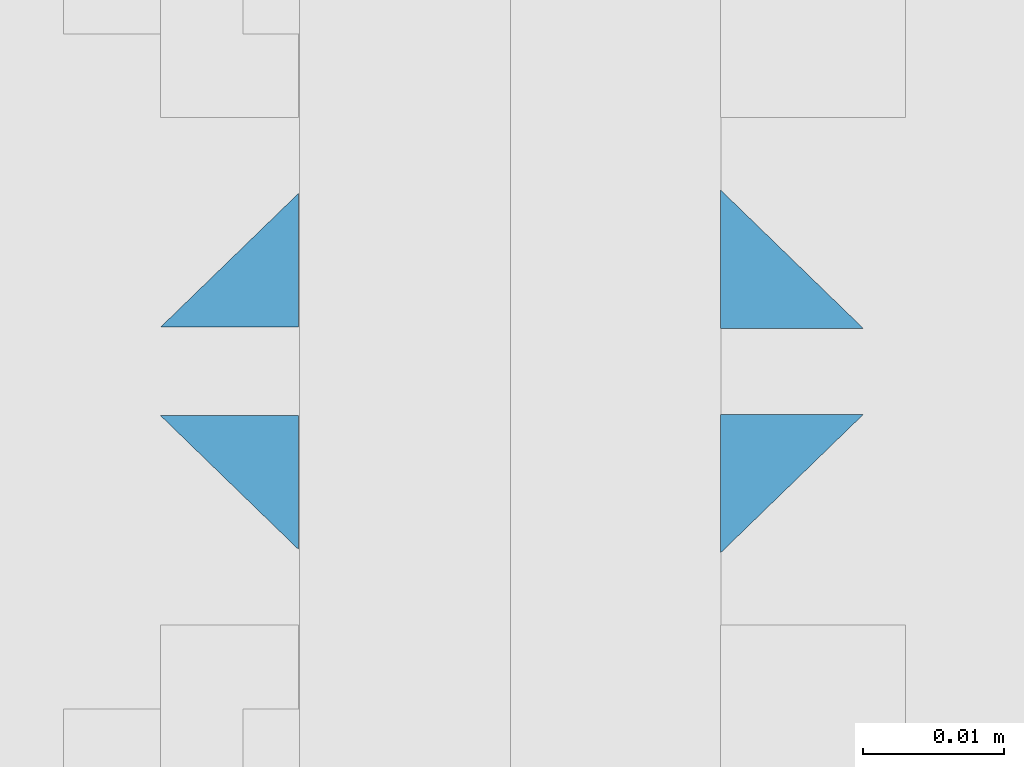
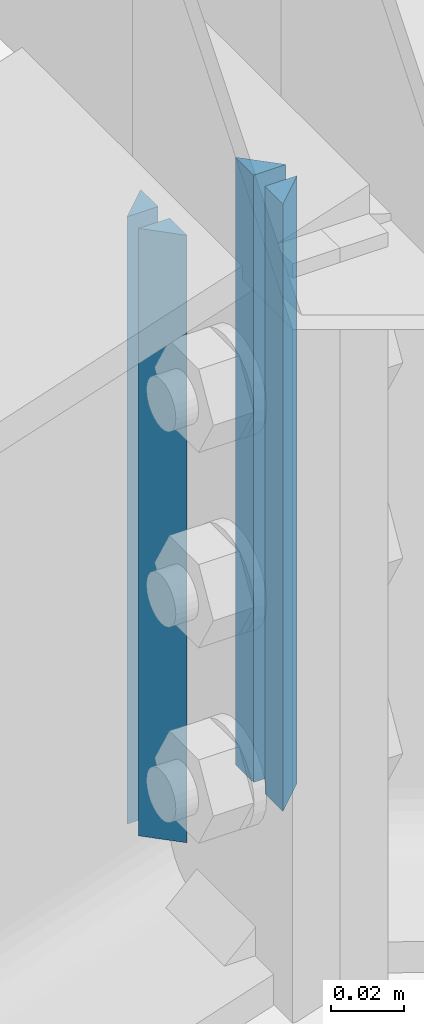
# One storey, part 12 of 53: 6 fasteners.
"""IFC4 building model written with IfcOpenShell, lengths in metres."""

from ifc_helpers import new_model, si_unit, frame, origin_with_axes, place, context, project, spatial, polyline, outline, extrude, type_object, element, save


model = new_model("IFC4")

# Units and contexts
model_context = context("Model", 3, precision=1e-05, world=origin_with_axes())
ifc_project = project(units=[si_unit("LENGTHUNIT", "METRE"), si_unit("AREAUNIT", "SQUARE_METRE"), si_unit("VOLUMEUNIT", "CUBIC_METRE"), si_unit("MASSUNIT", "GRAM", prefix="KILO"), si_unit("TIMEUNIT", "SECOND"), si_unit("PLANEANGLEUNIT", "RADIAN"), si_unit("SOLIDANGLEUNIT", "STERADIAN"), si_unit("THERMODYNAMICTEMPERATUREUNIT", "DEGREE_CELSIUS")], contexts=[model_context])

# Site, building, storey
placement_1 = place(None, origin_with_axes())
site = spatial("IfcSite", under=ifc_project, at=placement_1, Name="Italia", CompositionType="ELEMENT")
building = spatial("IfcBuilding", under=site, at=placement_1, Name="Capannone", CompositionType="ELEMENT")
storey_placement = place(None, frame((0.0, 0.0, 5.550000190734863), z_axis=(0.0, 0.0, 1.0), x_axis=(1.0, 0.0, 0.0)))
storey = spatial("IfcBuildingStorey", under=building, at=storey_placement, Name="Storey 1", CompositionType="ELEMENT", Elevation=5.550000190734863)

# Fasteners
fastener_type_1 = type_object("IfcFastenerType", Name="Collegamenti -1142_-1128 -1143_-1130 -1144_-1132 -1145_-1134 -1146_-1136 -1147_-1138", PredefinedType="WELD")
placement_2 = place(placement_1, origin_with_axes())
fastener_1_placement = place(placement_2, origin_with_axes())
element("IfcFastener", 1, at=fastener_1_placement, inside=storey, type_object=fastener_type_1, Name="Collegamenti -1142_-1128 -1143_-1130 -1144_-1132 -1145_-1134 -1146_-1136 -1147_-1138", context=model_context, shape_type="SweptSolid", body=[
    extrude(outline(polyline([(0.0, 0.0), (0.00986814, 0.0101738), (0.00986814, 0.0), (0.0, 0.0)])), frame((7.01495, 2.98708, 8.07243), z_axis=(0.0, 0.0, -1.0), x_axis=(0.0, 1.0, 0.0)), (0.0, 0.0, 1.0), 0.202095),
])
fastener_type_2 = type_object("IfcFastenerType", Name="Collegamenti -1142_-1128 -1143_-1130 -1144_-1132 -1145_-1134 -1146_-1136 -1147_-1138", PredefinedType="WELD")
fastener_2_placement = place(placement_2, origin_with_axes())
element("IfcFastener", 2, at=fastener_2_placement, inside=storey, type_object=fastener_type_2, Name="Collegamenti -1142_-1128 -1143_-1130 -1144_-1132 -1145_-1134 -1146_-1136 -1147_-1138", context=model_context, shape_type="SweptSolid", body=[
    extrude(outline(polyline([(0.0, 0.0), (-0.00986814, -0.0101738), (-0.00986814, 0.0), (0.0, 0.0)])), frame((7.01495, 3.01292, 7.87034), z_axis=(0.0, 0.0, 1.0), x_axis=(0.0, 1.0, 0.0)), (0.0, 0.0, 1.0), 0.202095),
])
fastener_type_3 = type_object("IfcFastenerType", Name="Collegamenti -1142_-1128 -1143_-1130 -1144_-1132 -1145_-1134 -1146_-1136 -1147_-1138", PredefinedType="WELD")
fastener_3_placement = place(placement_2, origin_with_axes())
element("IfcFastener", 3, at=fastener_3_placement, inside=storey, type_object=fastener_type_3, Name="Collegamenti -1142_-1128 -1143_-1130 -1144_-1132 -1145_-1134 -1146_-1136 -1147_-1138", context=model_context, shape_type="SweptSolid", body=[
    extrude(outline(polyline([(0.0, 0.0), (0.00986814, 0.0101738), (0.00986814, 0.0), (0.0, 0.0)])), frame((7.01495, 2.98708, 8.07243), z_axis=(0.0, 0.0, -1.0), x_axis=(0.0, 1.0, 0.0)), (0.0, 0.0, 1.0), 0.202095),
])
fastener_type_4 = type_object("IfcFastenerType", Name="Collegamenti -1142_-1128 -1143_-1130 -1144_-1132 -1145_-1134 -1146_-1136 -1147_-1138", PredefinedType="WELD")
fastener_4_placement = place(placement_2, origin_with_axes())
element("IfcFastener", 4, at=fastener_4_placement, inside=storey, type_object=fastener_type_4, Name="Collegamenti -1142_-1128 -1143_-1130 -1144_-1132 -1145_-1134 -1146_-1136 -1147_-1138", context=model_context, shape_type="SweptSolid", body=[
    extrude(outline(polyline([(0.0, 0.0), (-0.00986814, -0.0101738), (-0.00986814, 0.0), (0.0, 0.0)])), frame((7.01495, 3.01292, 7.87034), z_axis=(0.0, 0.0, 1.0), x_axis=(0.0, 1.0, 0.0)), (0.0, 0.0, 1.0), 0.202095),
])
fastener_type_5 = type_object("IfcFastenerType", Name="Collegamenti -1142_-1128 -1143_-1130 -1144_-1132 -1145_-1134 -1146_-1136 -1147_-1138", PredefinedType="WELD")
fastener_5_placement = place(placement_2, origin_with_axes())
element("IfcFastener", 5, at=fastener_5_placement, inside=storey, type_object=fastener_type_5, Name="Collegamenti -1142_-1128 -1143_-1130 -1144_-1132 -1145_-1134 -1146_-1136 -1147_-1138", context=model_context, shape_type="SweptSolid", body=[
    extrude(outline(polyline([(0.0, 0.0), (-0.00953174, 0.00982714), (-0.00953174, 0.0), (0.0, 0.0)])), frame((6.98495, 3.01268, 7.87034), z_axis=(0.0, 0.0, 1.0), x_axis=(0.0, 1.0, 0.0)), (0.0, 0.0, 1.0), 0.202095),
])
fastener_type_6 = type_object("IfcFastenerType", Name="Collegamenti -1142_-1128 -1143_-1130 -1144_-1132 -1145_-1134 -1146_-1136 -1147_-1138", PredefinedType="WELD")
fastener_6_placement = place(placement_2, origin_with_axes())
element("IfcFastener", 6, at=fastener_6_placement, inside=storey, type_object=fastener_type_6, Name="Collegamenti -1142_-1128 -1143_-1130 -1144_-1132 -1145_-1134 -1146_-1136 -1147_-1138", context=model_context, shape_type="SweptSolid", body=[
    extrude(outline(polyline([(0.0, 0.0), (0.00953197, -0.00982714), (0.00953197, 0.0), (0.0, 0.0)])), frame((6.98495, 2.98732, 8.07243), z_axis=(0.0, 0.0, -1.0), x_axis=(0.0, 1.0, 0.0)), (0.0, 0.0, 1.0), 0.202095),
])

save(model, "model.ifc")
